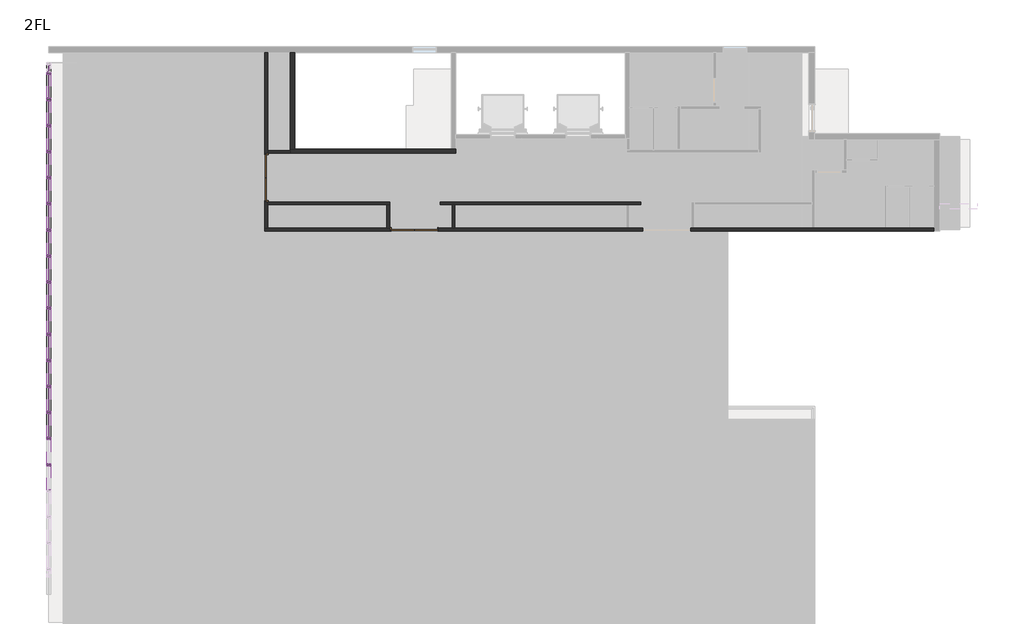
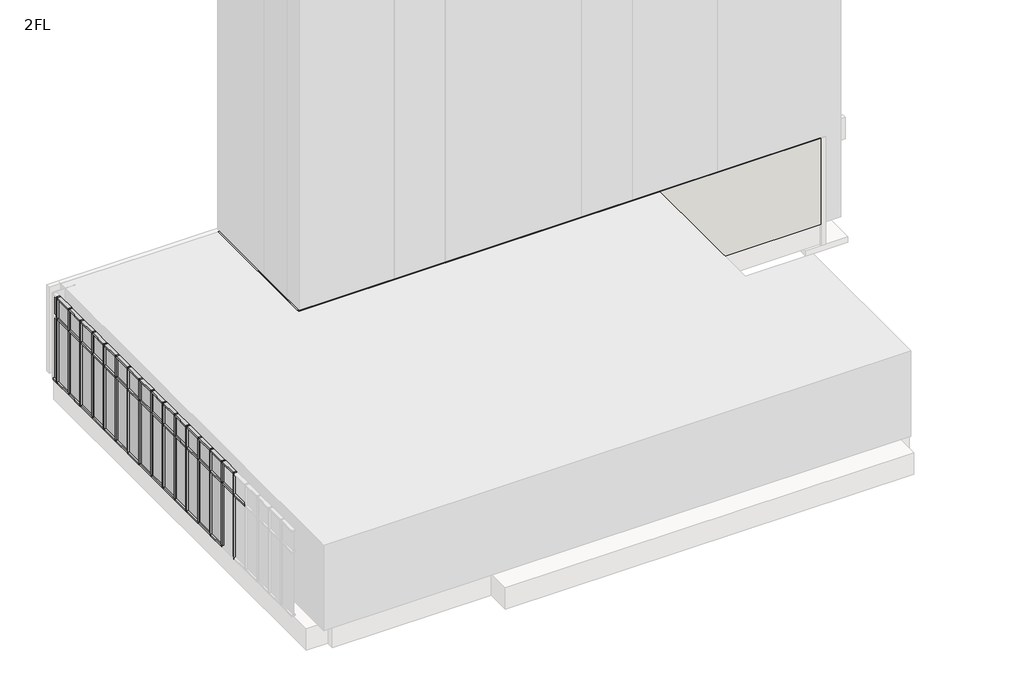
# One storey, part 3 of 4: 78 members, 30 plates, 9 walls, 2 doors.
"""IFC4 building model written with IfcOpenShell, lengths in millimetres."""

from ifc_helpers import new_model, si_unit, frame, origin, place, context, project, spatial, polyline, outline, extrude, faceted_brep, transform, mapped, element, save
from components import door_1de376c6, member_70x150_cdd4dcf9, member_70x150_66cf63de, member_70x150_26475b18, member_70x150_ad4265bc, member_70x150_a15bb337, plate_28587fd3, plate_396bcf3c, plate_4066ba05, plate_ba683b9a

model = new_model("IFC4")

# Units and contexts
model_context = context("Model", 3, world=origin())
ifc_project = project(units=[si_unit("LENGTHUNIT", "METRE", prefix="MILLI")], contexts=[model_context])

# Site, building, storey
site = spatial("IfcSite", under=ifc_project)
building = spatial("IfcBuilding", under=site)
storey = spatial("IfcBuildingStorey", under=building, Name="2FL", Elevation=4600.0)

# Doors
placement = place(None, origin())
door_shape = door_1de376c6(model_context)
element("IfcDoor", 1, ObjectType="両開き戸 : 両開き：w1600h2000", at=placement, inside=storey, context=model_context, shape_type="MappedRepresentation", body=[
    mapped(door_shape, transform((-21845.9784025, 12245.6585069, 4600.0), x_axis=(0.0, 1.0, 0.0), y_axis=(-1.0, 0.0, 0.0), z_axis=(0.0, 0.0, 1.0))),
])
element("IfcDoor", 2, ObjectType="両開き戸 : 両開き：w1600h2000", at=placement, inside=storey, context=model_context, shape_type="MappedRepresentation", body=[
    mapped(door_shape, transform((-16754.4500107, 10449.6868987, 4600.0), x_axis=(-1.0, 0.0, 0.0), y_axis=(0.0, -1.0, 0.0), z_axis=(0.0, 0.0, 1.0))),
])

# Members
member_70x150_shape = member_70x150_cdd4dcf9(model_context)
element("IfcMember", 3, ObjectType="長方形のマリオン : 70x150", at=placement, inside=storey, context=model_context, shape_type="MappedRepresentation", body=[
    mapped(member_70x150_shape, transform((-29345.9784025, 9534.6868987, 4600.0), x_axis=(0.0, 1.0, 0.0), y_axis=(1.0, 0.0, 0.0), z_axis=(0.0, 0.0, -1.0))),
])
element("IfcMember", 4, ObjectType="長方形のマリオン : 70x150", at=placement, inside=storey, context=model_context, shape_type="MappedRepresentation", body=[
    mapped(member_70x150_shape, transform((-29345.9784025, 8634.6868987, 4600.0), x_axis=(0.0, 1.0, 0.0), y_axis=(1.0, 0.0, 0.0), z_axis=(0.0, 0.0, -1.0))),
])
element("IfcMember", 5, ObjectType="長方形のマリオン : 70x150", at=placement, inside=storey, context=model_context, shape_type="MappedRepresentation", body=[
    mapped(member_70x150_shape, transform((-29345.9784025, 7734.6868987, 4600.0), x_axis=(0.0, 1.0, 0.0), y_axis=(1.0, 0.0, 0.0), z_axis=(0.0, 0.0, -1.0))),
])
element("IfcMember", 6, ObjectType="長方形のマリオン : 70x150", at=placement, inside=storey, context=model_context, shape_type="MappedRepresentation", body=[
    mapped(member_70x150_shape, transform((-29345.9784025, 6834.6868987, 4600.0), x_axis=(0.0, 1.0, 0.0), y_axis=(1.0, 0.0, 0.0), z_axis=(0.0, 0.0, -1.0))),
])
element("IfcMember", 7, ObjectType="長方形のマリオン : 70x150", at=placement, inside=storey, context=model_context, shape_type="MappedRepresentation", body=[
    mapped(member_70x150_shape, transform((-29345.9784025, 5934.6868987, 4600.0), x_axis=(0.0, 1.0, 0.0), y_axis=(1.0, 0.0, 0.0), z_axis=(0.0, 0.0, -1.0))),
])
element("IfcMember", 8, ObjectType="長方形のマリオン : 70x150", at=placement, inside=storey, context=model_context, shape_type="MappedRepresentation", body=[
    mapped(member_70x150_shape, transform((-29345.9784025, 5034.6868987, 4600.0), x_axis=(0.0, 1.0, 0.0), y_axis=(1.0, 0.0, 0.0), z_axis=(0.0, 0.0, -1.0))),
])
element("IfcMember", 9, ObjectType="長方形のマリオン : 70x150", at=placement, inside=storey, context=model_context, shape_type="MappedRepresentation", body=[
    mapped(member_70x150_shape, transform((-29345.9784025, 4134.6868987, 4600.0), x_axis=(0.0, 1.0, 0.0), y_axis=(1.0, 0.0, 0.0), z_axis=(0.0, 0.0, -1.0))),
])
element("IfcMember", 10, ObjectType="長方形のマリオン : 70x150", at=placement, inside=storey, context=model_context, shape_type="MappedRepresentation", body=[
    mapped(member_70x150_shape, transform((-29345.9784025, 3234.6868987, 4600.0), x_axis=(0.0, 1.0, 0.0), y_axis=(1.0, 0.0, 0.0), z_axis=(0.0, 0.0, -1.0))),
])
element("IfcMember", 11, ObjectType="長方形のマリオン : 70x150", at=placement, inside=storey, context=model_context, shape_type="MappedRepresentation", body=[
    mapped(member_70x150_shape, transform((-29345.9784025, 2334.6868987, 4600.0), x_axis=(0.0, 1.0, 0.0), y_axis=(1.0, 0.0, 0.0), z_axis=(0.0, 0.0, -1.0))),
])
element("IfcMember", 12, ObjectType="長方形のマリオン : 70x150", at=placement, inside=storey, context=model_context, shape_type="MappedRepresentation", body=[
    mapped(member_70x150_shape, transform((-29345.9784025, 15834.6868987, 4600.0), x_axis=(0.0, 1.0, 0.0), y_axis=(1.0, 0.0, 0.0), z_axis=(0.0, 0.0, -1.0))),
])
element("IfcMember", 13, ObjectType="長方形のマリオン : 70x150", at=placement, inside=storey, context=model_context, shape_type="MappedRepresentation", body=[
    mapped(member_70x150_shape, transform((-29345.9784025, 14934.6868987, 4600.0), x_axis=(0.0, 1.0, 0.0), y_axis=(1.0, 0.0, 0.0), z_axis=(0.0, 0.0, -1.0))),
])
element("IfcMember", 14, ObjectType="長方形のマリオン : 70x150", at=placement, inside=storey, context=model_context, shape_type="MappedRepresentation", body=[
    mapped(member_70x150_shape, transform((-29345.9784025, 14034.6868987, 4600.0), x_axis=(0.0, 1.0, 0.0), y_axis=(1.0, 0.0, 0.0), z_axis=(0.0, 0.0, -1.0))),
])
element("IfcMember", 15, ObjectType="長方形のマリオン : 70x150", at=placement, inside=storey, context=model_context, shape_type="MappedRepresentation", body=[
    mapped(member_70x150_shape, transform((-29345.9784025, 13134.6868987, 4600.0), x_axis=(0.0, 1.0, 0.0), y_axis=(1.0, 0.0, 0.0), z_axis=(0.0, 0.0, -1.0))),
])
element("IfcMember", 16, ObjectType="長方形のマリオン : 70x150", at=placement, inside=storey, context=model_context, shape_type="MappedRepresentation", body=[
    mapped(member_70x150_shape, transform((-29345.9784025, 12234.6868987, 4600.0), x_axis=(0.0, 1.0, 0.0), y_axis=(1.0, 0.0, 0.0), z_axis=(0.0, 0.0, -1.0))),
])
element("IfcMember", 17, ObjectType="長方形のマリオン : 70x150", at=placement, inside=storey, context=model_context, shape_type="MappedRepresentation", body=[
    mapped(member_70x150_shape, transform((-29345.9784025, 11334.6868987, 4600.0), x_axis=(0.0, 1.0, 0.0), y_axis=(1.0, 0.0, 0.0), z_axis=(0.0, 0.0, -1.0))),
])
element("IfcMember", 18, ObjectType="長方形のマリオン : 70x150", at=placement, inside=storey, context=model_context, shape_type="MappedRepresentation", body=[
    mapped(member_70x150_shape, transform((-29345.9784025, 10434.6868987, 4600.0), x_axis=(0.0, 1.0, 0.0), y_axis=(1.0, 0.0, 0.0), z_axis=(0.0, 0.0, -1.0))),
])
member_70x150_2_shape = member_70x150_66cf63de(model_context)
element("IfcMember", 19, ObjectType="長方形のマリオン : 70x150", at=placement, inside=storey, context=model_context, shape_type="MappedRepresentation", body=[
    mapped(member_70x150_2_shape, transform((-29345.9784025, 14969.6868987, 4600.0), x_axis=(0.0, 0.0, -1.0), y_axis=(1.0, 0.0, 0.0), z_axis=(0.0, -1.0, 0.0))),
])
element("IfcMember", 20, ObjectType="長方形のマリオン : 70x150", at=placement, inside=storey, context=model_context, shape_type="MappedRepresentation", body=[
    mapped(member_70x150_2_shape, transform((-29345.9784025, 14069.6868987, 4600.0), x_axis=(0.0, 0.0, -1.0), y_axis=(1.0, 0.0, 0.0), z_axis=(0.0, -1.0, 0.0))),
])
element("IfcMember", 21, ObjectType="長方形のマリオン : 70x150", at=placement, inside=storey, context=model_context, shape_type="MappedRepresentation", body=[
    mapped(member_70x150_2_shape, transform((-29345.9784025, 13169.6868987, 4600.0), x_axis=(0.0, 0.0, -1.0), y_axis=(1.0, 0.0, 0.0), z_axis=(0.0, -1.0, 0.0))),
])
element("IfcMember", 22, ObjectType="長方形のマリオン : 70x150", at=placement, inside=storey, context=model_context, shape_type="MappedRepresentation", body=[
    mapped(member_70x150_2_shape, transform((-29345.9784025, 12269.6868987, 4600.0), x_axis=(0.0, 0.0, -1.0), y_axis=(1.0, 0.0, 0.0), z_axis=(0.0, -1.0, 0.0))),
])
element("IfcMember", 23, ObjectType="長方形のマリオン : 70x150", at=placement, inside=storey, context=model_context, shape_type="MappedRepresentation", body=[
    mapped(member_70x150_2_shape, transform((-29345.9784025, 11369.6868987, 4600.0), x_axis=(0.0, 0.0, -1.0), y_axis=(1.0, 0.0, 0.0), z_axis=(0.0, -1.0, 0.0))),
])
element("IfcMember", 24, ObjectType="長方形のマリオン : 70x150", at=placement, inside=storey, context=model_context, shape_type="MappedRepresentation", body=[
    mapped(member_70x150_2_shape, transform((-29345.9784025, 10469.6868987, 4600.0), x_axis=(0.0, 0.0, -1.0), y_axis=(1.0, 0.0, 0.0), z_axis=(0.0, -1.0, 0.0))),
])
element("IfcMember", 25, ObjectType="長方形のマリオン : 70x150", at=placement, inside=storey, context=model_context, shape_type="MappedRepresentation", body=[
    mapped(member_70x150_2_shape, transform((-29345.9784025, 9569.6868987, 4600.0), x_axis=(0.0, 0.0, -1.0), y_axis=(1.0, 0.0, 0.0), z_axis=(0.0, -1.0, 0.0))),
])
element("IfcMember", 26, ObjectType="長方形のマリオン : 70x150", at=placement, inside=storey, context=model_context, shape_type="MappedRepresentation", body=[
    mapped(member_70x150_2_shape, transform((-29345.9784025, 8669.6868987, 4600.0), x_axis=(0.0, 0.0, -1.0), y_axis=(1.0, 0.0, 0.0), z_axis=(0.0, -1.0, 0.0))),
])
element("IfcMember", 27, ObjectType="長方形のマリオン : 70x150", at=placement, inside=storey, context=model_context, shape_type="MappedRepresentation", body=[
    mapped(member_70x150_2_shape, transform((-29345.9784025, 7769.6868987, 4600.0), x_axis=(0.0, 0.0, -1.0), y_axis=(1.0, 0.0, 0.0), z_axis=(0.0, -1.0, 0.0))),
])
element("IfcMember", 28, ObjectType="長方形のマリオン : 70x150", at=placement, inside=storey, context=model_context, shape_type="MappedRepresentation", body=[
    mapped(member_70x150_2_shape, transform((-29345.9784025, 6869.6868987, 4600.0), x_axis=(0.0, 0.0, -1.0), y_axis=(1.0, 0.0, 0.0), z_axis=(0.0, -1.0, 0.0))),
])
element("IfcMember", 29, ObjectType="長方形のマリオン : 70x150", at=placement, inside=storey, context=model_context, shape_type="MappedRepresentation", body=[
    mapped(member_70x150_2_shape, transform((-29345.9784025, 5969.6868987, 4600.0), x_axis=(0.0, 0.0, -1.0), y_axis=(1.0, 0.0, 0.0), z_axis=(0.0, -1.0, 0.0))),
])
element("IfcMember", 30, ObjectType="長方形のマリオン : 70x150", at=placement, inside=storey, context=model_context, shape_type="MappedRepresentation", body=[
    mapped(member_70x150_2_shape, transform((-29345.9784025, 5069.6868987, 4600.0), x_axis=(0.0, 0.0, -1.0), y_axis=(1.0, 0.0, 0.0), z_axis=(0.0, -1.0, 0.0))),
])
element("IfcMember", 31, ObjectType="長方形のマリオン : 70x150", at=placement, inside=storey, context=model_context, shape_type="MappedRepresentation", body=[
    mapped(member_70x150_2_shape, transform((-29345.9784025, 4169.6868987, 4600.0), x_axis=(0.0, 0.0, -1.0), y_axis=(1.0, 0.0, 0.0), z_axis=(0.0, -1.0, 0.0))),
])
element("IfcMember", 32, ObjectType="長方形のマリオン : 70x150", at=placement, inside=storey, context=model_context, shape_type="MappedRepresentation", body=[
    mapped(member_70x150_2_shape, transform((-29345.9784025, 3269.6868987, 4600.0), x_axis=(0.0, 0.0, -1.0), y_axis=(1.0, 0.0, 0.0), z_axis=(0.0, -1.0, 0.0))),
])
element("IfcMember", 33, ObjectType="長方形のマリオン : 70x150", at=placement, inside=storey, context=model_context, shape_type="MappedRepresentation", body=[
    mapped(member_70x150_2_shape, transform((-29345.9784025, 15799.6868987, 8600.0), x_axis=(0.0, 0.0, 1.0), y_axis=(1.0, 0.0, 0.0), z_axis=(0.0, 1.0, 0.0))),
])
element("IfcMember", 34, ObjectType="長方形のマリオン : 70x150", at=placement, inside=storey, context=model_context, shape_type="MappedRepresentation", body=[
    mapped(member_70x150_2_shape, transform((-29345.9784025, 14899.6868987, 8600.0), x_axis=(0.0, 0.0, 1.0), y_axis=(1.0, 0.0, 0.0), z_axis=(0.0, 1.0, 0.0))),
])
element("IfcMember", 35, ObjectType="長方形のマリオン : 70x150", at=placement, inside=storey, context=model_context, shape_type="MappedRepresentation", body=[
    mapped(member_70x150_2_shape, transform((-29345.9784025, 13999.6868987, 8600.0), x_axis=(0.0, 0.0, 1.0), y_axis=(1.0, 0.0, 0.0), z_axis=(0.0, 1.0, 0.0))),
])
element("IfcMember", 36, ObjectType="長方形のマリオン : 70x150", at=placement, inside=storey, context=model_context, shape_type="MappedRepresentation", body=[
    mapped(member_70x150_2_shape, transform((-29345.9784025, 13099.6868987, 8600.0), x_axis=(0.0, 0.0, 1.0), y_axis=(1.0, 0.0, 0.0), z_axis=(0.0, 1.0, 0.0))),
])
element("IfcMember", 37, ObjectType="長方形のマリオン : 70x150", at=placement, inside=storey, context=model_context, shape_type="MappedRepresentation", body=[
    mapped(member_70x150_2_shape, transform((-29345.9784025, 12199.6868987, 8600.0), x_axis=(0.0, 0.0, 1.0), y_axis=(1.0, 0.0, 0.0), z_axis=(0.0, 1.0, 0.0))),
])
element("IfcMember", 38, ObjectType="長方形のマリオン : 70x150", at=placement, inside=storey, context=model_context, shape_type="MappedRepresentation", body=[
    mapped(member_70x150_2_shape, transform((-29345.9784025, 11299.6868987, 8600.0), x_axis=(0.0, 0.0, 1.0), y_axis=(1.0, 0.0, 0.0), z_axis=(0.0, 1.0, 0.0))),
])
element("IfcMember", 39, ObjectType="長方形のマリオン : 70x150", at=placement, inside=storey, context=model_context, shape_type="MappedRepresentation", body=[
    mapped(member_70x150_2_shape, transform((-29345.9784025, 10399.6868987, 8600.0), x_axis=(0.0, 0.0, 1.0), y_axis=(1.0, 0.0, 0.0), z_axis=(0.0, 1.0, 0.0))),
])
element("IfcMember", 40, ObjectType="長方形のマリオン : 70x150", at=placement, inside=storey, context=model_context, shape_type="MappedRepresentation", body=[
    mapped(member_70x150_2_shape, transform((-29345.9784025, 9499.6868987, 8600.0), x_axis=(0.0, 0.0, 1.0), y_axis=(1.0, 0.0, 0.0), z_axis=(0.0, 1.0, 0.0))),
])
element("IfcMember", 41, ObjectType="長方形のマリオン : 70x150", at=placement, inside=storey, context=model_context, shape_type="MappedRepresentation", body=[
    mapped(member_70x150_2_shape, transform((-29345.9784025, 8599.6868987, 8600.0), x_axis=(0.0, 0.0, 1.0), y_axis=(1.0, 0.0, 0.0), z_axis=(0.0, 1.0, 0.0))),
])
element("IfcMember", 42, ObjectType="長方形のマリオン : 70x150", at=placement, inside=storey, context=model_context, shape_type="MappedRepresentation", body=[
    mapped(member_70x150_2_shape, transform((-29345.9784025, 7699.6868987, 8600.0), x_axis=(0.0, 0.0, 1.0), y_axis=(1.0, 0.0, 0.0), z_axis=(0.0, 1.0, 0.0))),
])
element("IfcMember", 43, ObjectType="長方形のマリオン : 70x150", at=placement, inside=storey, context=model_context, shape_type="MappedRepresentation", body=[
    mapped(member_70x150_2_shape, transform((-29345.9784025, 6799.6868987, 8600.0), x_axis=(0.0, 0.0, 1.0), y_axis=(1.0, 0.0, 0.0), z_axis=(0.0, 1.0, 0.0))),
])
element("IfcMember", 44, ObjectType="長方形のマリオン : 70x150", at=placement, inside=storey, context=model_context, shape_type="MappedRepresentation", body=[
    mapped(member_70x150_2_shape, transform((-29345.9784025, 5899.6868987, 8600.0), x_axis=(0.0, 0.0, 1.0), y_axis=(1.0, 0.0, 0.0), z_axis=(0.0, 1.0, 0.0))),
])
element("IfcMember", 45, ObjectType="長方形のマリオン : 70x150", at=placement, inside=storey, context=model_context, shape_type="MappedRepresentation", body=[
    mapped(member_70x150_2_shape, transform((-29345.9784025, 4999.6868987, 8600.0), x_axis=(0.0, 0.0, 1.0), y_axis=(1.0, 0.0, 0.0), z_axis=(0.0, 1.0, 0.0))),
])
element("IfcMember", 46, ObjectType="長方形のマリオン : 70x150", at=placement, inside=storey, context=model_context, shape_type="MappedRepresentation", body=[
    mapped(member_70x150_2_shape, transform((-29345.9784025, 4099.6868987, 8600.0), x_axis=(0.0, 0.0, 1.0), y_axis=(1.0, 0.0, 0.0), z_axis=(0.0, 1.0, 0.0))),
])
element("IfcMember", 47, ObjectType="長方形のマリオン : 70x150", at=placement, inside=storey, context=model_context, shape_type="MappedRepresentation", body=[
    mapped(member_70x150_2_shape, transform((-29345.9784025, 3199.6868987, 8600.0), x_axis=(0.0, 0.0, 1.0), y_axis=(1.0, 0.0, 0.0), z_axis=(0.0, 1.0, 0.0))),
])
member_70x150_3_shape = member_70x150_26475b18(model_context)
element("IfcMember", 48, ObjectType="長方形のマリオン : 70x150", at=placement, inside=storey, context=model_context, shape_type="MappedRepresentation", body=[
    mapped(member_70x150_3_shape, transform((-29345.9784025, 15834.6868987, 7600.0), x_axis=(0.0, 1.0, 0.0), y_axis=(1.0, 0.0, 0.0), z_axis=(0.0, 0.0, -1.0))),
])
element("IfcMember", 49, ObjectType="長方形のマリオン : 70x150", at=placement, inside=storey, context=model_context, shape_type="MappedRepresentation", body=[
    mapped(member_70x150_3_shape, transform((-29345.9784025, 14934.6868987, 7600.0), x_axis=(0.0, 1.0, 0.0), y_axis=(1.0, 0.0, 0.0), z_axis=(0.0, 0.0, -1.0))),
])
element("IfcMember", 50, ObjectType="長方形のマリオン : 70x150", at=placement, inside=storey, context=model_context, shape_type="MappedRepresentation", body=[
    mapped(member_70x150_3_shape, transform((-29345.9784025, 14034.6868987, 7600.0), x_axis=(0.0, 1.0, 0.0), y_axis=(1.0, 0.0, 0.0), z_axis=(0.0, 0.0, -1.0))),
])
element("IfcMember", 51, ObjectType="長方形のマリオン : 70x150", at=placement, inside=storey, context=model_context, shape_type="MappedRepresentation", body=[
    mapped(member_70x150_3_shape, transform((-29345.9784025, 13134.6868987, 7600.0), x_axis=(0.0, 1.0, 0.0), y_axis=(1.0, 0.0, 0.0), z_axis=(0.0, 0.0, -1.0))),
])
element("IfcMember", 52, ObjectType="長方形のマリオン : 70x150", at=placement, inside=storey, context=model_context, shape_type="MappedRepresentation", body=[
    mapped(member_70x150_3_shape, transform((-29345.9784025, 12234.6868987, 7600.0), x_axis=(0.0, 1.0, 0.0), y_axis=(1.0, 0.0, 0.0), z_axis=(0.0, 0.0, -1.0))),
])
element("IfcMember", 53, ObjectType="長方形のマリオン : 70x150", at=placement, inside=storey, context=model_context, shape_type="MappedRepresentation", body=[
    mapped(member_70x150_3_shape, transform((-29345.9784025, 11334.6868987, 7600.0), x_axis=(0.0, 1.0, 0.0), y_axis=(1.0, 0.0, 0.0), z_axis=(0.0, 0.0, -1.0))),
])
element("IfcMember", 54, ObjectType="長方形のマリオン : 70x150", at=placement, inside=storey, context=model_context, shape_type="MappedRepresentation", body=[
    mapped(member_70x150_3_shape, transform((-29345.9784025, 10434.6868987, 7600.0), x_axis=(0.0, 1.0, 0.0), y_axis=(1.0, 0.0, 0.0), z_axis=(0.0, 0.0, -1.0))),
])
element("IfcMember", 55, ObjectType="長方形のマリオン : 70x150", at=placement, inside=storey, context=model_context, shape_type="MappedRepresentation", body=[
    mapped(member_70x150_3_shape, transform((-29345.9784025, 9534.6868987, 7600.0), x_axis=(0.0, 1.0, 0.0), y_axis=(1.0, 0.0, 0.0), z_axis=(0.0, 0.0, -1.0))),
])
element("IfcMember", 56, ObjectType="長方形のマリオン : 70x150", at=placement, inside=storey, context=model_context, shape_type="MappedRepresentation", body=[
    mapped(member_70x150_3_shape, transform((-29345.9784025, 8634.6868987, 7600.0), x_axis=(0.0, 1.0, 0.0), y_axis=(1.0, 0.0, 0.0), z_axis=(0.0, 0.0, -1.0))),
])
element("IfcMember", 57, ObjectType="長方形のマリオン : 70x150", at=placement, inside=storey, context=model_context, shape_type="MappedRepresentation", body=[
    mapped(member_70x150_3_shape, transform((-29345.9784025, 7734.6868987, 7600.0), x_axis=(0.0, 1.0, 0.0), y_axis=(1.0, 0.0, 0.0), z_axis=(0.0, 0.0, -1.0))),
])
element("IfcMember", 58, ObjectType="長方形のマリオン : 70x150", at=placement, inside=storey, context=model_context, shape_type="MappedRepresentation", body=[
    mapped(member_70x150_3_shape, transform((-29345.9784025, 6834.6868987, 7600.0), x_axis=(0.0, 1.0, 0.0), y_axis=(1.0, 0.0, 0.0), z_axis=(0.0, 0.0, -1.0))),
])
element("IfcMember", 59, ObjectType="長方形のマリオン : 70x150", at=placement, inside=storey, context=model_context, shape_type="MappedRepresentation", body=[
    mapped(member_70x150_3_shape, transform((-29345.9784025, 5934.6868987, 7600.0), x_axis=(0.0, 1.0, 0.0), y_axis=(1.0, 0.0, 0.0), z_axis=(0.0, 0.0, -1.0))),
])
element("IfcMember", 60, ObjectType="長方形のマリオン : 70x150", at=placement, inside=storey, context=model_context, shape_type="MappedRepresentation", body=[
    mapped(member_70x150_3_shape, transform((-29345.9784025, 5034.6868987, 7600.0), x_axis=(0.0, 1.0, 0.0), y_axis=(1.0, 0.0, 0.0), z_axis=(0.0, 0.0, -1.0))),
])
element("IfcMember", 61, ObjectType="長方形のマリオン : 70x150", at=placement, inside=storey, context=model_context, shape_type="MappedRepresentation", body=[
    mapped(member_70x150_3_shape, transform((-29345.9784025, 4134.6868987, 7600.0), x_axis=(0.0, 1.0, 0.0), y_axis=(1.0, 0.0, 0.0), z_axis=(0.0, 0.0, -1.0))),
])
element("IfcMember", 62, ObjectType="長方形のマリオン : 70x150", at=placement, inside=storey, context=model_context, shape_type="MappedRepresentation", body=[
    mapped(member_70x150_3_shape, transform((-29345.9784025, 3234.6868987, 7600.0), x_axis=(0.0, 1.0, 0.0), y_axis=(1.0, 0.0, 0.0), z_axis=(0.0, 0.0, -1.0))),
])
element("IfcMember", 63, ObjectType="長方形のマリオン : 70x150", at=placement, inside=storey, context=model_context, shape_type="MappedRepresentation", body=[
    mapped(member_70x150_3_shape, transform((-29345.9784025, 2334.6868987, 7600.0), x_axis=(0.0, 1.0, 0.0), y_axis=(1.0, 0.0, 0.0), z_axis=(0.0, 0.0, -1.0))),
])
member_70x150_4_shape = member_70x150_ad4265bc(model_context)
element("IfcMember", 64, ObjectType="長方形のマリオン : 70x150", at=placement, inside=storey, context=model_context, shape_type="MappedRepresentation", body=[
    mapped(member_70x150_4_shape, transform((-29345.9784025, 15799.6868987, 7600.0), x_axis=(0.0, 0.0, 1.0), y_axis=(1.0, 0.0, 0.0), z_axis=(0.0, 1.0, 0.0))),
])
element("IfcMember", 65, ObjectType="長方形のマリオン : 70x150", at=placement, inside=storey, context=model_context, shape_type="MappedRepresentation", body=[
    mapped(member_70x150_4_shape, transform((-29345.9784025, 14899.6868987, 7600.0), x_axis=(0.0, 0.0, 1.0), y_axis=(1.0, 0.0, 0.0), z_axis=(0.0, 1.0, 0.0))),
])
element("IfcMember", 66, ObjectType="長方形のマリオン : 70x150", at=placement, inside=storey, context=model_context, shape_type="MappedRepresentation", body=[
    mapped(member_70x150_4_shape, transform((-29345.9784025, 13999.6868987, 7600.0), x_axis=(0.0, 0.0, 1.0), y_axis=(1.0, 0.0, 0.0), z_axis=(0.0, 1.0, 0.0))),
])
element("IfcMember", 67, ObjectType="長方形のマリオン : 70x150", at=placement, inside=storey, context=model_context, shape_type="MappedRepresentation", body=[
    mapped(member_70x150_4_shape, transform((-29345.9784025, 13099.6868987, 7600.0), x_axis=(0.0, 0.0, 1.0), y_axis=(1.0, 0.0, 0.0), z_axis=(0.0, 1.0, 0.0))),
])
element("IfcMember", 68, ObjectType="長方形のマリオン : 70x150", at=placement, inside=storey, context=model_context, shape_type="MappedRepresentation", body=[
    mapped(member_70x150_4_shape, transform((-29345.9784025, 12199.6868987, 7600.0), x_axis=(0.0, 0.0, 1.0), y_axis=(1.0, 0.0, 0.0), z_axis=(0.0, 1.0, 0.0))),
])
element("IfcMember", 69, ObjectType="長方形のマリオン : 70x150", at=placement, inside=storey, context=model_context, shape_type="MappedRepresentation", body=[
    mapped(member_70x150_4_shape, transform((-29345.9784025, 11299.6868987, 7600.0), x_axis=(0.0, 0.0, 1.0), y_axis=(1.0, 0.0, 0.0), z_axis=(0.0, 1.0, 0.0))),
])
element("IfcMember", 70, ObjectType="長方形のマリオン : 70x150", at=placement, inside=storey, context=model_context, shape_type="MappedRepresentation", body=[
    mapped(member_70x150_4_shape, transform((-29345.9784025, 10399.6868987, 7600.0), x_axis=(0.0, 0.0, 1.0), y_axis=(1.0, 0.0, 0.0), z_axis=(0.0, 1.0, 0.0))),
])
element("IfcMember", 71, ObjectType="長方形のマリオン : 70x150", at=placement, inside=storey, context=model_context, shape_type="MappedRepresentation", body=[
    mapped(member_70x150_4_shape, transform((-29345.9784025, 9499.6868987, 7600.0), x_axis=(0.0, 0.0, 1.0), y_axis=(1.0, 0.0, 0.0), z_axis=(0.0, 1.0, 0.0))),
])
element("IfcMember", 72, ObjectType="長方形のマリオン : 70x150", at=placement, inside=storey, context=model_context, shape_type="MappedRepresentation", body=[
    mapped(member_70x150_4_shape, transform((-29345.9784025, 8599.6868987, 7600.0), x_axis=(0.0, 0.0, 1.0), y_axis=(1.0, 0.0, 0.0), z_axis=(0.0, 1.0, 0.0))),
])
element("IfcMember", 73, ObjectType="長方形のマリオン : 70x150", at=placement, inside=storey, context=model_context, shape_type="MappedRepresentation", body=[
    mapped(member_70x150_4_shape, transform((-29345.9784025, 7699.6868987, 7600.0), x_axis=(0.0, 0.0, 1.0), y_axis=(1.0, 0.0, 0.0), z_axis=(0.0, 1.0, 0.0))),
])
element("IfcMember", 74, ObjectType="長方形のマリオン : 70x150", at=placement, inside=storey, context=model_context, shape_type="MappedRepresentation", body=[
    mapped(member_70x150_4_shape, transform((-29345.9784025, 6799.6868987, 7600.0), x_axis=(0.0, 0.0, 1.0), y_axis=(1.0, 0.0, 0.0), z_axis=(0.0, 1.0, 0.0))),
])
element("IfcMember", 75, ObjectType="長方形のマリオン : 70x150", at=placement, inside=storey, context=model_context, shape_type="MappedRepresentation", body=[
    mapped(member_70x150_4_shape, transform((-29345.9784025, 5899.6868987, 7600.0), x_axis=(0.0, 0.0, 1.0), y_axis=(1.0, 0.0, 0.0), z_axis=(0.0, 1.0, 0.0))),
])
element("IfcMember", 76, ObjectType="長方形のマリオン : 70x150", at=placement, inside=storey, context=model_context, shape_type="MappedRepresentation", body=[
    mapped(member_70x150_4_shape, transform((-29345.9784025, 4999.6868987, 7600.0), x_axis=(0.0, 0.0, 1.0), y_axis=(1.0, 0.0, 0.0), z_axis=(0.0, 1.0, 0.0))),
])
element("IfcMember", 77, ObjectType="長方形のマリオン : 70x150", at=placement, inside=storey, context=model_context, shape_type="MappedRepresentation", body=[
    mapped(member_70x150_4_shape, transform((-29345.9784025, 4099.6868987, 7600.0), x_axis=(0.0, 0.0, 1.0), y_axis=(1.0, 0.0, 0.0), z_axis=(0.0, 1.0, 0.0))),
])
element("IfcMember", 78, ObjectType="長方形のマリオン : 70x150", at=placement, inside=storey, context=model_context, shape_type="MappedRepresentation", body=[
    mapped(member_70x150_4_shape, transform((-29345.9784025, 3199.6868987, 7600.0), x_axis=(0.0, 0.0, 1.0), y_axis=(1.0, 0.0, 0.0), z_axis=(0.0, 1.0, 0.0))),
])
element("IfcMember", 79, ObjectType="長方形のマリオン : 70x150", at=placement, inside=storey, context=model_context, shape_type="MappedRepresentation", body=[
    mapped(member_70x150_4_shape, transform((-29345.9784025, 2299.6868987, 7600.0), x_axis=(0.0, 0.0, 1.0), y_axis=(1.0, 0.0, 0.0), z_axis=(0.0, 1.0, 0.0))),
])
member_70x150_5_shape = member_70x150_a15bb337(model_context)
element("IfcMember", 80, ObjectType="長方形のマリオン : 70x150", at=placement, inside=storey, context=model_context, shape_type="MappedRepresentation", body=[
    mapped(member_70x150_5_shape, transform((-29345.9784025, 15869.6868987, 4600.0), x_axis=(0.0, 0.0, -1.0), y_axis=(1.0, 0.0, 0.0), z_axis=(0.0, -1.0, 0.0))),
])

# Plates
plate_shape = plate_28587fd3(model_context)
element("IfcPlate", 81, ObjectType="システム パネル : 標準", at=placement, inside=storey, context=model_context, shape_type="MappedRepresentation", body=[
    mapped(plate_shape, transform((-29345.9784025, 3684.6868987, 4670.0), x_axis=(0.0, 1.0, 0.0), y_axis=(-1.0, 0.0, 0.0), z_axis=(0.0, 0.0, 1.0))),
])
element("IfcPlate", 82, ObjectType="システム パネル : 標準", at=placement, inside=storey, context=model_context, shape_type="MappedRepresentation", body=[
    mapped(plate_shape, transform((-29345.9784025, 4584.6868987, 4670.0), x_axis=(0.0, 1.0, 0.0), y_axis=(-1.0, 0.0, 0.0), z_axis=(0.0, 0.0, 1.0))),
])
element("IfcPlate", 83, ObjectType="システム パネル : 標準", at=placement, inside=storey, context=model_context, shape_type="MappedRepresentation", body=[
    mapped(plate_shape, transform((-29345.9784025, 5484.6868987, 4670.0), x_axis=(0.0, 1.0, 0.0), y_axis=(-1.0, 0.0, 0.0), z_axis=(0.0, 0.0, 1.0))),
])
element("IfcPlate", 84, ObjectType="システム パネル : 標準", at=placement, inside=storey, context=model_context, shape_type="MappedRepresentation", body=[
    mapped(plate_shape, transform((-29345.9784025, 6384.6868987, 4670.0), x_axis=(0.0, 1.0, 0.0), y_axis=(-1.0, 0.0, 0.0), z_axis=(0.0, 0.0, 1.0))),
])
element("IfcPlate", 85, ObjectType="システム パネル : 標準", at=placement, inside=storey, context=model_context, shape_type="MappedRepresentation", body=[
    mapped(plate_shape, transform((-29345.9784025, 7284.6868987, 4670.0), x_axis=(0.0, 1.0, 0.0), y_axis=(-1.0, 0.0, 0.0), z_axis=(0.0, 0.0, 1.0))),
])
element("IfcPlate", 86, ObjectType="システム パネル : 標準", at=placement, inside=storey, context=model_context, shape_type="MappedRepresentation", body=[
    mapped(plate_shape, transform((-29345.9784025, 8184.6868987, 4670.0), x_axis=(0.0, 1.0, 0.0), y_axis=(-1.0, 0.0, 0.0), z_axis=(0.0, 0.0, 1.0))),
])
element("IfcPlate", 87, ObjectType="システム パネル : 標準", at=placement, inside=storey, context=model_context, shape_type="MappedRepresentation", body=[
    mapped(plate_shape, transform((-29345.9784025, 9084.6868987, 4670.0), x_axis=(0.0, 1.0, 0.0), y_axis=(-1.0, 0.0, 0.0), z_axis=(0.0, 0.0, 1.0))),
])
element("IfcPlate", 88, ObjectType="システム パネル : 標準", at=placement, inside=storey, context=model_context, shape_type="MappedRepresentation", body=[
    mapped(plate_shape, transform((-29345.9784025, 9984.6868987, 4670.0), x_axis=(0.0, 1.0, 0.0), y_axis=(-1.0, 0.0, 0.0), z_axis=(0.0, 0.0, 1.0))),
])
element("IfcPlate", 89, ObjectType="システム パネル : 標準", at=placement, inside=storey, context=model_context, shape_type="MappedRepresentation", body=[
    mapped(plate_shape, transform((-29345.9784025, 10884.6868987, 4670.0), x_axis=(0.0, 1.0, 0.0), y_axis=(-1.0, 0.0, 0.0), z_axis=(0.0, 0.0, 1.0))),
])
element("IfcPlate", 90, ObjectType="システム パネル : 標準", at=placement, inside=storey, context=model_context, shape_type="MappedRepresentation", body=[
    mapped(plate_shape, transform((-29345.9784025, 11784.6868987, 4670.0), x_axis=(0.0, 1.0, 0.0), y_axis=(-1.0, 0.0, 0.0), z_axis=(0.0, 0.0, 1.0))),
])
element("IfcPlate", 91, ObjectType="システム パネル : 標準", at=placement, inside=storey, context=model_context, shape_type="MappedRepresentation", body=[
    mapped(plate_shape, transform((-29345.9784025, 12684.6868987, 4670.0), x_axis=(0.0, 1.0, 0.0), y_axis=(-1.0, 0.0, 0.0), z_axis=(0.0, 0.0, 1.0))),
])
element("IfcPlate", 92, ObjectType="システム パネル : 標準", at=placement, inside=storey, context=model_context, shape_type="MappedRepresentation", body=[
    mapped(plate_shape, transform((-29345.9784025, 13584.6868987, 4670.0), x_axis=(0.0, 1.0, 0.0), y_axis=(-1.0, 0.0, 0.0), z_axis=(0.0, 0.0, 1.0))),
])
element("IfcPlate", 93, ObjectType="システム パネル : 標準", at=placement, inside=storey, context=model_context, shape_type="MappedRepresentation", body=[
    mapped(plate_shape, transform((-29345.9784025, 14484.6868987, 4670.0), x_axis=(0.0, 1.0, 0.0), y_axis=(-1.0, 0.0, 0.0), z_axis=(0.0, 0.0, 1.0))),
])
element("IfcPlate", 94, ObjectType="システム パネル : 標準", at=placement, inside=storey, context=model_context, shape_type="MappedRepresentation", body=[
    mapped(plate_shape, transform((-29345.9784025, 15384.6868987, 4670.0), x_axis=(0.0, 1.0, 0.0), y_axis=(-1.0, 0.0, 0.0), z_axis=(0.0, 0.0, 1.0))),
])
plate_2_shape = plate_396bcf3c(model_context)
element("IfcPlate", 95, ObjectType="システム パネル : 標準", at=placement, inside=storey, context=model_context, shape_type="MappedRepresentation", body=[
    mapped(plate_2_shape, transform((-29345.9784025, 3684.6868987, 7635.0), x_axis=(0.0, 1.0, 0.0), y_axis=(-1.0, 0.0, 0.0), z_axis=(0.0, 0.0, 1.0))),
])
element("IfcPlate", 96, ObjectType="システム パネル : 標準", at=placement, inside=storey, context=model_context, shape_type="MappedRepresentation", body=[
    mapped(plate_2_shape, transform((-29345.9784025, 4584.6868987, 7635.0), x_axis=(0.0, 1.0, 0.0), y_axis=(-1.0, 0.0, 0.0), z_axis=(0.0, 0.0, 1.0))),
])
element("IfcPlate", 97, ObjectType="システム パネル : 標準", at=placement, inside=storey, context=model_context, shape_type="MappedRepresentation", body=[
    mapped(plate_2_shape, transform((-29345.9784025, 5484.6868987, 7635.0), x_axis=(0.0, 1.0, 0.0), y_axis=(-1.0, 0.0, 0.0), z_axis=(0.0, 0.0, 1.0))),
])
element("IfcPlate", 98, ObjectType="システム パネル : 標準", at=placement, inside=storey, context=model_context, shape_type="MappedRepresentation", body=[
    mapped(plate_2_shape, transform((-29345.9784025, 6384.6868987, 7635.0), x_axis=(0.0, 1.0, 0.0), y_axis=(-1.0, 0.0, 0.0), z_axis=(0.0, 0.0, 1.0))),
])
element("IfcPlate", 99, ObjectType="システム パネル : 標準", at=placement, inside=storey, context=model_context, shape_type="MappedRepresentation", body=[
    mapped(plate_2_shape, transform((-29345.9784025, 7284.6868987, 7635.0), x_axis=(0.0, 1.0, 0.0), y_axis=(-1.0, 0.0, 0.0), z_axis=(0.0, 0.0, 1.0))),
])
element("IfcPlate", 100, ObjectType="システム パネル : 標準", at=placement, inside=storey, context=model_context, shape_type="MappedRepresentation", body=[
    mapped(plate_2_shape, transform((-29345.9784025, 8184.6868987, 7635.0), x_axis=(0.0, 1.0, 0.0), y_axis=(-1.0, 0.0, 0.0), z_axis=(0.0, 0.0, 1.0))),
])
element("IfcPlate", 101, ObjectType="システム パネル : 標準", at=placement, inside=storey, context=model_context, shape_type="MappedRepresentation", body=[
    mapped(plate_2_shape, transform((-29345.9784025, 9084.6868987, 7635.0), x_axis=(0.0, 1.0, 0.0), y_axis=(-1.0, 0.0, 0.0), z_axis=(0.0, 0.0, 1.0))),
])
element("IfcPlate", 102, ObjectType="システム パネル : 標準", at=placement, inside=storey, context=model_context, shape_type="MappedRepresentation", body=[
    mapped(plate_2_shape, transform((-29345.9784025, 9984.6868987, 7635.0), x_axis=(0.0, 1.0, 0.0), y_axis=(-1.0, 0.0, 0.0), z_axis=(0.0, 0.0, 1.0))),
])
element("IfcPlate", 103, ObjectType="システム パネル : 標準", at=placement, inside=storey, context=model_context, shape_type="MappedRepresentation", body=[
    mapped(plate_2_shape, transform((-29345.9784025, 10884.6868987, 7635.0), x_axis=(0.0, 1.0, 0.0), y_axis=(-1.0, 0.0, 0.0), z_axis=(0.0, 0.0, 1.0))),
])
element("IfcPlate", 104, ObjectType="システム パネル : 標準", at=placement, inside=storey, context=model_context, shape_type="MappedRepresentation", body=[
    mapped(plate_2_shape, transform((-29345.9784025, 11784.6868987, 7635.0), x_axis=(0.0, 1.0, 0.0), y_axis=(-1.0, 0.0, 0.0), z_axis=(0.0, 0.0, 1.0))),
])
element("IfcPlate", 105, ObjectType="システム パネル : 標準", at=placement, inside=storey, context=model_context, shape_type="MappedRepresentation", body=[
    mapped(plate_2_shape, transform((-29345.9784025, 12684.6868987, 7635.0), x_axis=(0.0, 1.0, 0.0), y_axis=(-1.0, 0.0, 0.0), z_axis=(0.0, 0.0, 1.0))),
])
element("IfcPlate", 106, ObjectType="システム パネル : 標準", at=placement, inside=storey, context=model_context, shape_type="MappedRepresentation", body=[
    mapped(plate_2_shape, transform((-29345.9784025, 13584.6868987, 7635.0), x_axis=(0.0, 1.0, 0.0), y_axis=(-1.0, 0.0, 0.0), z_axis=(0.0, 0.0, 1.0))),
])
element("IfcPlate", 107, ObjectType="システム パネル : 標準", at=placement, inside=storey, context=model_context, shape_type="MappedRepresentation", body=[
    mapped(plate_2_shape, transform((-29345.9784025, 14484.6868987, 7635.0), x_axis=(0.0, 1.0, 0.0), y_axis=(-1.0, 0.0, 0.0), z_axis=(0.0, 0.0, 1.0))),
])
element("IfcPlate", 108, ObjectType="システム パネル : 標準", at=placement, inside=storey, context=model_context, shape_type="MappedRepresentation", body=[
    mapped(plate_2_shape, transform((-29345.9784025, 15384.6868987, 7635.0), x_axis=(0.0, 1.0, 0.0), y_axis=(-1.0, 0.0, 0.0), z_axis=(0.0, 0.0, 1.0))),
])
plate_3_shape = plate_4066ba05(model_context)
element("IfcPlate", 109, ObjectType="システム パネル : 標準", at=placement, inside=storey, context=model_context, shape_type="MappedRepresentation", body=[
    mapped(plate_3_shape, transform((-29345.9784025, 15999.6868987, 4670.0), x_axis=(0.0, 1.0, 0.0), y_axis=(-1.0, 0.0, 0.0), z_axis=(0.0, 0.0, 1.0))),
])
plate_4_shape = plate_ba683b9a(model_context)
element("IfcPlate", 110, ObjectType="システム パネル : 標準", at=placement, inside=storey, context=model_context, shape_type="MappedRepresentation", body=[
    mapped(plate_4_shape, transform((-29345.9784025, 15999.6868987, 7635.0), x_axis=(0.0, 1.0, 0.0), y_axis=(-1.0, 0.0, 0.0), z_axis=(0.0, 0.0, 1.0))),
])

# Walls
element("IfcWall", 111, ObjectType="標準150", at=placement, inside=storey, context=model_context, shape_type="Brep", body=[
    faceted_brep([(-15320.9784025, 13224.6868987, 4600.0), (-15470.9784025, 13224.6868987, 4600.0), (-20870.9784025, 13224.6868987, 4600.0), (-21020.9784025, 13224.6868987, 4600.0), (-21020.9784025, 13224.6868987, 8600.0), (-20870.9784025, 13224.6868987, 8600.0), (-15470.9784025, 13224.6868987, 8600.0), (-15320.9784025, 13224.6868987, 8600.0), (-15320.9784025, 13074.6868987, 4600.0), (-15320.9784025, 13074.6868987, 8600.0), (-21020.9784025, 13074.6868987, 8600.0), (-21020.9784025, 13074.6868987, 4600.0), (-21020.9784025, 13174.6868987, 4600.0), (-21020.9784025, 13174.6868987, 8600.0)], [[[0, 1, 2, 3, 4, 5, 6, 7]], [[8, 9, 10, 11]], [[3, 2, 1, 0, 8, 11, 12]], [[7, 6, 5, 4, 13, 10, 9]], [[4, 3, 12, 11, 10, 13]], [[0, 7, 9, 8]]]),
])
element("IfcWall", 112, ObjectType="標準150", at=placement, inside=storey, context=model_context, shape_type="SweptSolid", body=[
    extrude(outline(polyline([(-20870.9784025, 16549.6868987), (-20870.9784025, 13224.6868987), (-21020.9784025, 13224.6868987), (-21020.9784025, 16549.6868987), (-20870.9784025, 16549.6868987)])), frame((0.0, 0.0, 4600.0), z_axis=(0.0, 0.0, 1.0), x_axis=(1.0, 0.0, 0.0)), (0.0, 0.0, 1.0), 4000.0),
])
element("IfcWall", 113, ObjectType="標準100", at=placement, inside=storey, context=model_context, shape_type="Brep", body=[
    faceted_brep([(1154.0215975, 10499.6868987, 4600.0), (354.0215975, 10499.6868987, 4600.0), (314.0215975, 10499.6868987, 4600.0), (-485.9784025, 10499.6868987, 4600.0), (-525.9784025, 10499.6868987, 4600.0), (-2945.9784025, 10499.6868987, 4600.0), (-3045.9784025, 10499.6868987, 4600.0), (-3845.9784025, 10499.6868987, 4600.0), (-7095.9784025, 10499.6868987, 4600.0), (-7195.9784025, 10499.6868987, 4600.0), (-7220.9784025, 10499.6868987, 4600.0), (-7220.9784025, 10499.6868987, 6625.0), (-8870.9784025, 10499.6868987, 6625.0), (-8870.9784025, 10499.6868987, 4600.0), (-8945.9784025, 10499.6868987, 4600.0), (-9345.9784025, 10499.6868987, 4600.0), (-9445.9784025, 10499.6868987, 4600.0), (-9845.9784025, 10499.6868987, 4600.0), (-14945.9784025, 10499.6868987, 4600.0), (-15345.9784025, 10499.6868987, 4600.0), (-15445.9784025, 10499.6868987, 4600.0), (-15845.9784025, 10499.6868987, 4600.0), (-15920.9784025, 10499.6868987, 4600.0), (-15920.9784025, 10499.6868987, 6625.0), (-17570.9784025, 10499.6868987, 6625.0), (-17570.9784025, 10499.6868987, 4600.0), (-17595.9784025, 10499.6868987, 4600.0), (-17695.9784025, 10499.6868987, 4600.0), (-20945.9784025, 10499.6868987, 4600.0), (-21795.9784025, 10499.6868987, 4600.0), (-21895.9784025, 10499.6868987, 4600.0), (-21895.9784025, 10499.6868987, 8600.0), (-21795.9784025, 10499.6868987, 8600.0), (-17695.9784025, 10499.6868987, 8600.0), (-17595.9784025, 10499.6868987, 8600.0), (-15445.9784025, 10499.6868987, 8600.0), (-15345.9784025, 10499.6868987, 8600.0), (-9445.9784025, 10499.6868987, 8600.0), (-9345.9784025, 10499.6868987, 8600.0), (-7195.9784025, 10499.6868987, 8600.0), (-7095.9784025, 10499.6868987, 8600.0), (-3045.9784025, 10499.6868987, 8600.0), (-2945.9784025, 10499.6868987, 8600.0), (1154.0215975, 10499.6868987, 8600.0), (-7220.9784025, 10399.6868987, 6625.0), (-7220.9784025, 10399.6868987, 4600.0), (1154.0215975, 10399.6868987, 4600.0), (1154.0215975, 10399.6868987, 8600.0), (-21895.9784025, 10399.6868987, 8600.0), (-21895.9784025, 10399.6868987, 4600.0), (-17570.9784025, 10399.6868987, 4600.0), (-17570.9784025, 10399.6868987, 6625.0), (-15920.9784025, 10399.6868987, 6625.0), (-15920.9784025, 10399.6868987, 4600.0), (-8870.9784025, 10399.6868987, 4600.0), (-8870.9784025, 10399.6868987, 6625.0)], [[[0, 1, 2, 3, 4, 5, 6, 7, 8, 9, 10, 11, 12, 13, 14, 15, 16, 17, 18, 19, 20, 21, 22, 23, 24, 25, 26, 27, 28, 29, 30, 31, 32, 33, 34, 35, 36, 37, 38, 39, 40, 41, 42, 43]], [[44, 45, 46, 47, 48, 49, 50, 51, 52, 53, 54, 55]], [[50, 49, 30, 29, 28, 27, 26, 25]], [[54, 53, 22, 21, 20, 19, 18, 17, 16, 15, 14, 13]], [[46, 45, 10, 9, 8, 7, 6, 5, 4, 3, 2, 1, 0]], [[43, 42, 41, 40, 39, 38, 37, 36, 35, 34, 33, 32, 31, 48, 47]], [[31, 30, 49, 48]], [[0, 43, 47, 46]], [[25, 24, 51, 50]], [[23, 22, 53, 52]], [[24, 23, 52, 51]], [[13, 12, 55, 54]], [[11, 10, 45, 44]], [[12, 11, 44, 55]]]),
])
element("IfcWall", 114, ObjectType="標準100", at=placement, inside=storey, context=model_context, shape_type="Brep", body=[
    faceted_brep([(-21795.9784025, 10499.6868987, 4600.0), (-21795.9784025, 10524.6868987, 4600.0), (-21795.9784025, 11299.6868987, 4600.0), (-21795.9784025, 11399.6868987, 4600.0), (-21795.9784025, 11412.1868987, 4600.0), (-21795.9784025, 11412.1868987, 6625.0), (-21795.9784025, 13062.1868987, 6625.0), (-21795.9784025, 13062.1868987, 4600.0), (-21795.9784025, 13074.6868987, 4600.0), (-21795.9784025, 13174.6868987, 4600.0), (-21795.9784025, 16549.6868987, 4600.0), (-21795.9784025, 16549.6868987, 8600.0), (-21795.9784025, 13174.6868987, 8600.0), (-21795.9784025, 13074.6868987, 8600.0), (-21795.9784025, 11399.6868987, 8600.0), (-21795.9784025, 11299.6868987, 8600.0), (-21795.9784025, 10499.6868987, 8600.0), (-21895.9784025, 11412.1868987, 6625.0), (-21895.9784025, 11412.1868987, 4600.0), (-21895.9784025, 10499.6868987, 4600.0), (-21895.9784025, 10499.6868987, 8600.0), (-21895.9784025, 16549.6868987, 8600.0), (-21895.9784025, 16549.6868987, 4600.0), (-21895.9784025, 13062.1868987, 4600.0), (-21895.9784025, 13062.1868987, 6625.0)], [[[0, 1, 2, 3, 4, 5, 6, 7, 8, 9, 10, 11, 12, 13, 14, 15, 16]], [[17, 18, 19, 20, 21, 22, 23, 24]], [[23, 22, 10, 9, 8, 7]], [[19, 18, 4, 3, 2, 1, 0]], [[16, 15, 14, 13, 12, 11, 21, 20]], [[0, 16, 20, 19]], [[11, 10, 22, 21]], [[7, 6, 24, 23]], [[5, 4, 18, 17]], [[6, 5, 17, 24]]]),
])
element("IfcWall", 115, ObjectType="標準100", at=placement, inside=storey, context=model_context, shape_type="Brep", body=[
    faceted_brep([(-15345.9784025, 10499.6868987, 4600.0), (-15345.9784025, 10524.6868987, 4600.0), (-15345.9784025, 11299.6868987, 4600.0), (-15345.9784025, 11299.6868987, 8600.0), (-15345.9784025, 10499.6868987, 8600.0), (-15445.9784025, 10499.6868987, 4600.0), (-15445.9784025, 10499.6868987, 8600.0), (-15445.9784025, 11299.6868987, 8600.0), (-15445.9784025, 11299.6868987, 4600.0), (-15445.9784025, 10524.6868987, 4600.0)], [[[0, 1, 2, 3, 4]], [[5, 6, 7, 8, 9]], [[2, 1, 0, 5, 9, 8]], [[4, 3, 7, 6]], [[0, 4, 6, 5]], [[3, 2, 8, 7]]]),
])
element("IfcWall", 116, ObjectType="標準100", at=placement, inside=storey, context=model_context, shape_type="Brep", body=[
    faceted_brep([(-15845.9784025, 11299.6868987, 4600.0), (-15795.9784025, 11299.6868987, 4600.0), (-15445.9784025, 11299.6868987, 4600.0), (-15345.9784025, 11299.6868987, 4600.0), (-14945.9784025, 11299.6868987, 4600.0), (-9445.9784025, 11299.6868987, 4600.0), (-9345.9784025, 11299.6868987, 4600.0), (-8945.9784025, 11299.6868987, 4600.0), (-8945.9784025, 11299.6868987, 8600.0), (-9345.9784025, 11299.6868987, 8600.0), (-9445.9784025, 11299.6868987, 8600.0), (-15345.9784025, 11299.6868987, 8600.0), (-15445.9784025, 11299.6868987, 8600.0), (-15845.9784025, 11299.6868987, 8600.0), (-15845.9784025, 11399.6868987, 4600.0), (-15845.9784025, 11399.6868987, 8600.0), (-8945.9784025, 11399.6868987, 8600.0), (-8945.9784025, 11399.6868987, 4600.0), (-15845.9784025, 11349.6868987, 4600.0)], [[[0, 1, 2, 3, 4, 5, 6, 7, 8, 9, 10, 11, 12, 13]], [[14, 15, 16, 17]], [[7, 6, 5, 4, 3, 2, 1, 0, 18, 14, 17]], [[8, 7, 17, 16]], [[13, 12, 11, 10, 9, 8, 16, 15]], [[0, 13, 15, 14, 18]]]),
])
element("IfcWall", 117, ObjectType="標準100", at=placement, inside=storey, context=model_context, shape_type="Brep", body=[
    faceted_brep([(-21795.9784025, 11299.6868987, 4600.0), (-20995.9784025, 11299.6868987, 4600.0), (-20945.9784025, 11299.6868987, 4600.0), (-17695.9784025, 11299.6868987, 4600.0), (-17595.9784025, 11299.6868987, 4600.0), (-17595.9784025, 11299.6868987, 8600.0), (-17695.9784025, 11299.6868987, 8600.0), (-21795.9784025, 11299.6868987, 8600.0), (-21795.9784025, 11399.6868987, 4600.0), (-21795.9784025, 11399.6868987, 8600.0), (-17595.9784025, 11399.6868987, 8600.0), (-17595.9784025, 11399.6868987, 4600.0)], [[[0, 1, 2, 3, 4, 5, 6, 7]], [[8, 9, 10, 11]], [[4, 3, 2, 1, 0, 8, 11]], [[7, 6, 5, 10, 9]], [[0, 7, 9, 8]], [[5, 4, 11, 10]]]),
])
element("IfcWall", 118, ObjectType="標準100", at=placement, inside=storey, context=model_context, shape_type="SweptSolid", body=[
    extrude(outline(polyline([(-17695.9784025, 10499.6868987), (-17695.9784025, 11299.6868987), (-17595.9784025, 11299.6868987), (-17595.9784025, 10499.6868987), (-17695.9784025, 10499.6868987)])), frame((0.0, 0.0, 4600.0), z_axis=(0.0, 0.0, 1.0), x_axis=(1.0, 0.0, 0.0)), (0.0, 0.0, 1.0), 4000.0),
])
element("IfcWall", 119, ObjectType="標準100", at=placement, inside=storey, context=model_context, shape_type="SweptSolid", body=[
    extrude(outline(polyline([(-21020.9784025, 13074.6868987), (-21795.9784025, 13074.6868987), (-21795.9784025, 13174.6868987), (-21020.9784025, 13174.6868987), (-21020.9784025, 13074.6868987)])), frame((0.0, 0.0, 4600.0), z_axis=(0.0, 0.0, 1.0), x_axis=(1.0, 0.0, 0.0)), (0.0, 0.0, 1.0), 4000.0),
])

save(model, "model.ifc")
